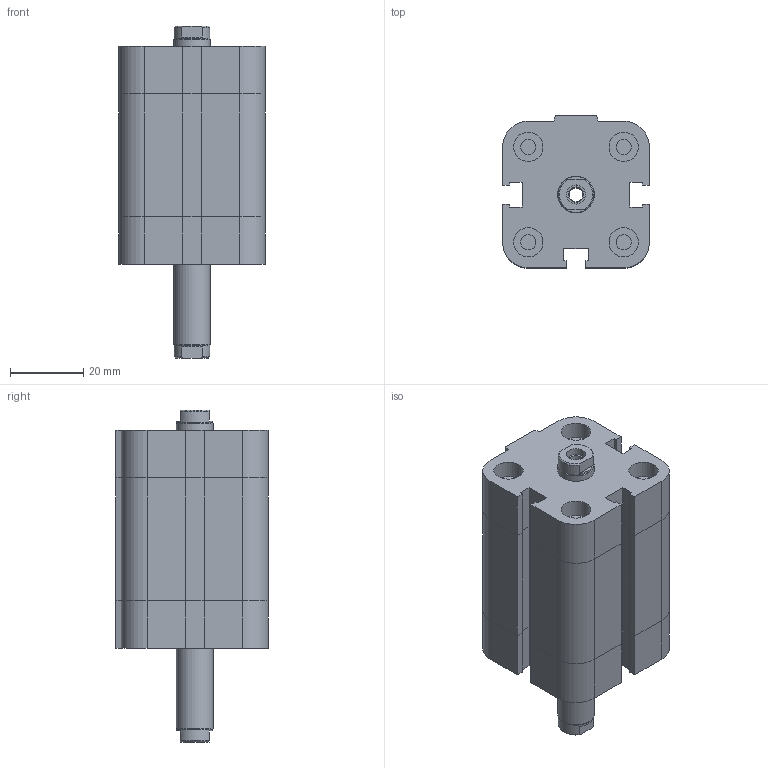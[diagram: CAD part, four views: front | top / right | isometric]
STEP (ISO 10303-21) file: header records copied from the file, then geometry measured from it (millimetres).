
FILE_DESCRIPTION((''),'2;1');
FILE_NAME('I:\Area Tecnica\Disegni\VARIE-3D\Componenti\EUROPE\15##_###_####_06_#\1581_25_0020_06_1.iam.stp','2009-04-20T15:09:06',(''),(''),'Autodesk Inventor 2009','Autodesk Inventor 2009','');
FILE_SCHEMA(('AUTOMOTIVE_DESIGN { 1 0 10303 214 1 1 1 1 }'));
Length unit declared in the file: millimetre
Products named in the file (3): 1581_25_0020_06_1; 1581_25_0020_03_1_C; 1561_25_0020_06_1_S
Assembly tree (2 placements, depth 2):
  1581_25_0020_06_1
    1581_25_0020_03_1_C
    1561_25_0020_06_1_S
Bounding box: 40 x 41.5 x 90.5 mm (x, y, z)
Volume: 85402.9 mm3; surface area: 22827.9 mm2
Topology: 2 solids, 2 shells, 175 faces, 382 edges, 233 vertices
Faces by surface type: plane 114, bspline 30, cylinder 25, cone 6
Full cylindrical faces by diameter (mm): 4.134 x5, 5.2 x1, 8 x4, 9.8 x2, 10 x1
Entity records: 4805 total; most frequent: CARTESIAN_POINT 1042, DIRECTION 712, ORIENTED_EDGE 680, EDGE_CURVE 340, VECTOR 252, LINE 252, AXIS2_PLACEMENT_3D 230, EDGE_LOOP 230
